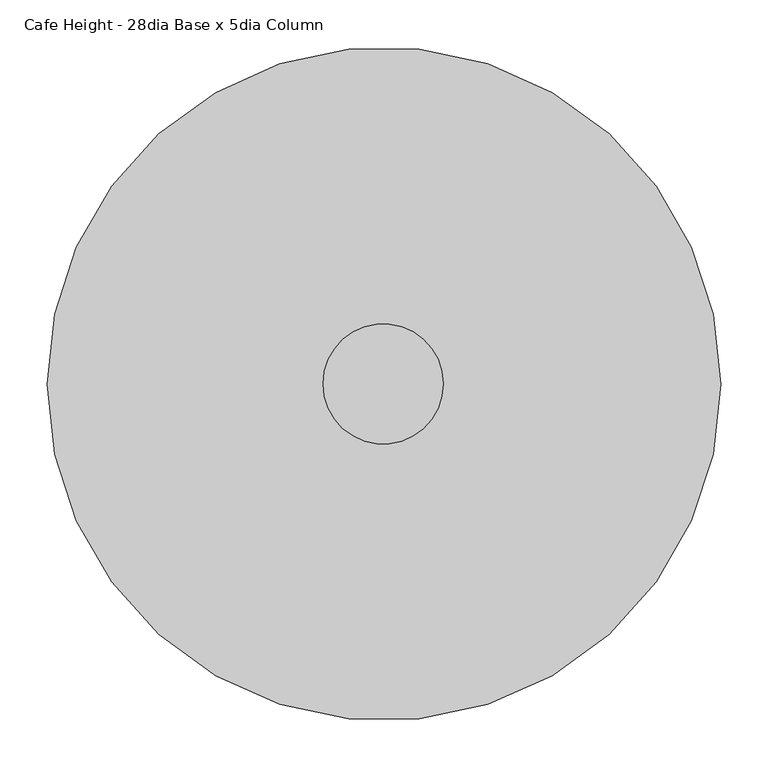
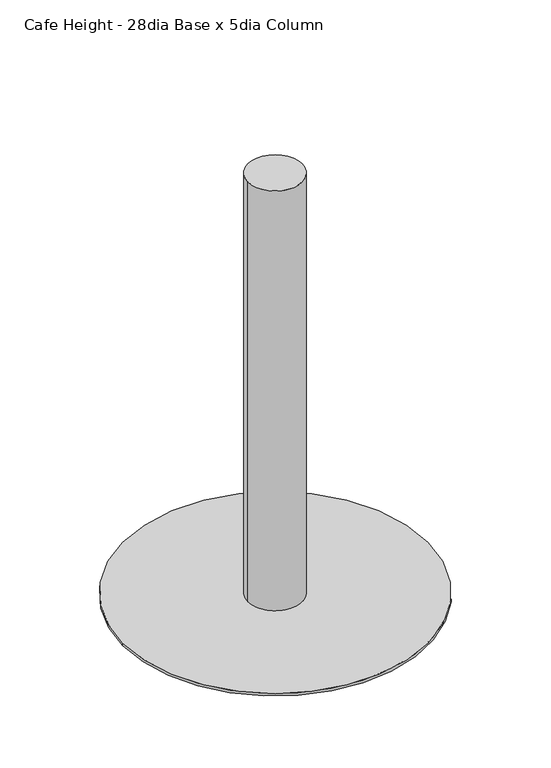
"""IFC4 building model written with IfcOpenShell, lengths in millimetres: furniture geometry, Steelcase - Groupwork - Table - Base : Cafe Height - 28dia Base x 5dia Column."""

from ifc_helpers import new_model, si_unit, point, frame, frame_2d, origin, origin_with_axes, origin_2d, place, context, project, spatial, circle_curve, trimmed, segment, composite_curve, outline, extrude, source, transform, mapped, element, save


def cafe_height_28dia_base_x_5dia_column_bb7a02e7(model_context):
    return source(origin(), model_context, "Body", "SweptSolid", [
        extrude(outline(composite_curve([segment(trimmed(circle_curve(frame_2d((-0.79375, 0.0)), 63.5), [point((-64.29375, 0.0))], [point((62.70625, 0.0))], False, "CARTESIAN"), True, "CONTINUOUS"), segment(trimmed(circle_curve(frame_2d((-0.79375, 0.0)), 63.5), [point((62.70625, 0.0))], [point((-64.29375, 0.0))], False, "CARTESIAN"), True, "CONTINUOUS")], self_intersect=False)), frame((0.0, 0.0, 6.35), z_axis=(0.0, 0.0, 1.0), x_axis=(1.0, 0.0, 0.0)), (0.0, 0.0, 1.0), 1035.05),
        extrude(outline(composite_curve([segment(trimmed(circle_curve(origin_2d(), 355.6), [point((-355.6, 0.0))], [point((355.6, 0.0))], False, "CARTESIAN"), True, "CONTINUOUS"), segment(trimmed(circle_curve(origin_2d(), 355.6), [point((355.6, 0.0))], [point((-355.6, 0.0))], False, "CARTESIAN"), True, "CONTINUOUS")], self_intersect=False)), origin_with_axes(), (0.0, 0.0, 1.0), 6.35),
    ])


if __name__ == "__main__":
    model = new_model("IFC4")
    model_context = context("Model", 3, world=origin())
    ifc_project = project(units=[si_unit("LENGTHUNIT", "METRE", prefix="MILLI")], contexts=[model_context])
    site = spatial("IfcSite", under=ifc_project)
    building = spatial("IfcBuilding", under=site)
    placement = place(None, origin())
    cafe_height_28dia_base_x_5dia_column_shape = cafe_height_28dia_base_x_5dia_column_bb7a02e7(model_context)
    element("IfcFurniture", 1, ObjectType="Steelcase - Groupwork - Table - Base : Cafe Height - 28dia Base x 5dia Column", at=placement, inside=building, context=model_context, shape_type="MappedRepresentation", body=[
        mapped(cafe_height_28dia_base_x_5dia_column_shape, transform((0.0, 0.0, 0.0), x_axis=(1.0, 0.0, 0.0), y_axis=(0.0, 1.0, 0.0), z_axis=(0.0, 0.0, 1.0))),
    ])
    save(model, "model.ifc")
